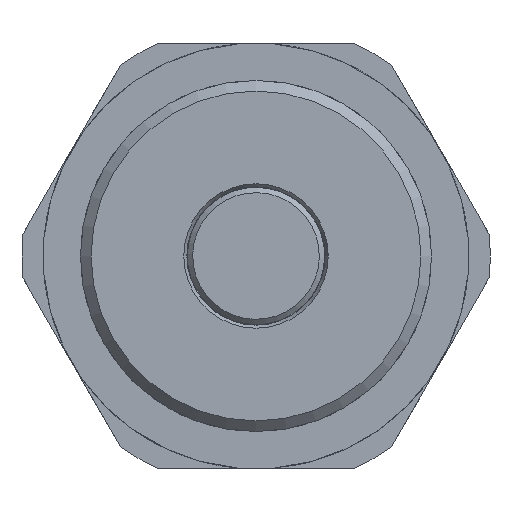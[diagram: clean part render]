
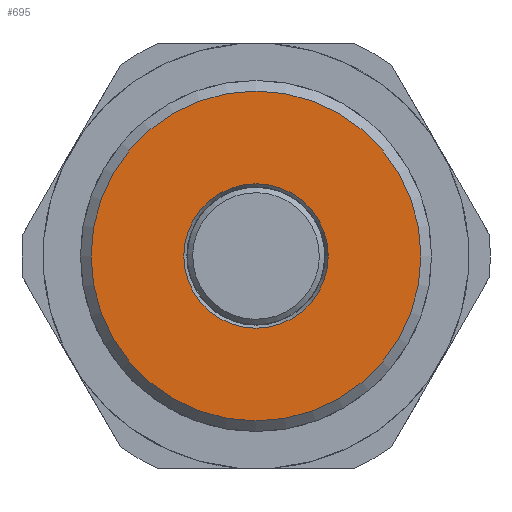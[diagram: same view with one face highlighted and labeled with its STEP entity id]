
A CAD part, front view. The second image highlights one B-rep face of the part: STEP entity #695.
In plain terms, the highlighted planar face has unit normal (0, -1, 0).
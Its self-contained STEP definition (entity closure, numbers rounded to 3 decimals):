
#26=FACE_BOUND('',#112,.T.);
#32=PLANE('',#775);
#68=FACE_OUTER_BOUND('',#111,.T.);
#111=EDGE_LOOP('',(#469,#470));
#112=EDGE_LOOP('',(#471));
#230=CIRCLE('',#769,6.789);
#235=CIRCLE('',#776,15.5);
#236=CIRCLE('',#777,15.5);
#280=VERTEX_POINT('',#1102);
#285=VERTEX_POINT('',#1116);
#286=VERTEX_POINT('',#1117);
#348=EDGE_CURVE('',#280,#280,#230,.T.);
#355=EDGE_CURVE('',#285,#286,#235,.T.);
#356=EDGE_CURVE('',#286,#285,#236,.T.);
#469=ORIENTED_EDGE('',*,*,#355,.F.);
#470=ORIENTED_EDGE('',*,*,#356,.F.);
#471=ORIENTED_EDGE('',*,*,#348,.F.);
#695=ADVANCED_FACE('',(#68,#26),#32,.T.);
#769=AXIS2_PLACEMENT_3D('',#1103,#889,#890);
#775=AXIS2_PLACEMENT_3D('',#1115,#903,#904);
#776=AXIS2_PLACEMENT_3D('',#1118,#905,#906);
#777=AXIS2_PLACEMENT_3D('',#1119,#907,#908);
#889=DIRECTION('center_axis',(0.,-1.,0.));
#890=DIRECTION('ref_axis',(-1.,0.,0.));
#903=DIRECTION('center_axis',(0.,-1.,0.));
#904=DIRECTION('ref_axis',(0.,0.,-1.));
#905=DIRECTION('center_axis',(0.,1.,0.));
#906=DIRECTION('ref_axis',(1.,0.,0.));
#907=DIRECTION('center_axis',(0.,1.,0.));
#908=DIRECTION('ref_axis',(1.,0.,0.));
#1102=CARTESIAN_POINT('',(-8.705,-11.394,-2.111));
#1103=CARTESIAN_POINT('Origin',(-15.494,-11.394,-2.111));
#1115=CARTESIAN_POINT('Origin',(-30.994,-11.394,-2.111));
#1116=CARTESIAN_POINT('',(-30.994,-11.394,-2.111));
#1117=CARTESIAN_POINT('',(0.006,-11.394,-2.111));
#1118=CARTESIAN_POINT('Origin',(-15.494,-11.394,-2.111));
#1119=CARTESIAN_POINT('Origin',(-15.494,-11.394,-2.111));
